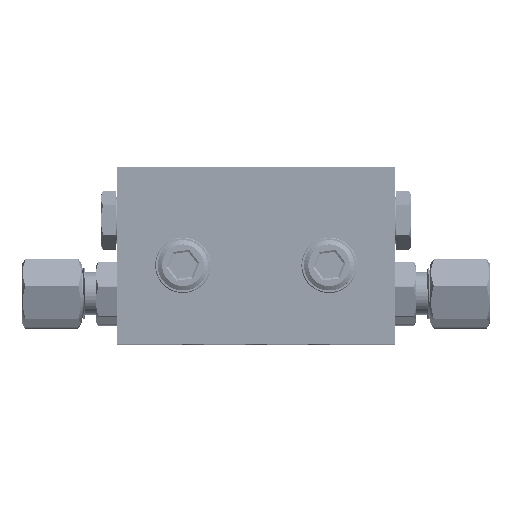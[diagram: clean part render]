
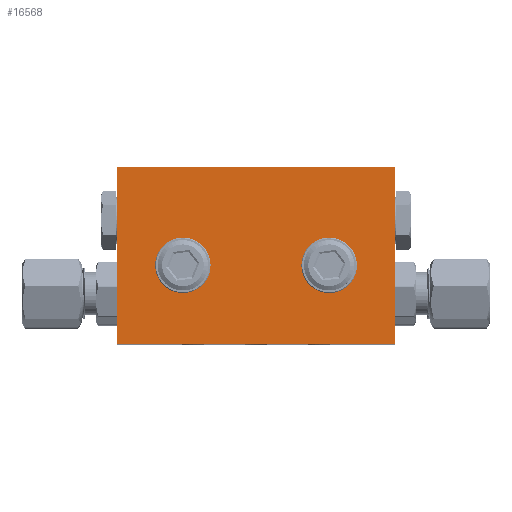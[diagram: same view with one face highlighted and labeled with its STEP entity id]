
A CAD part, top view. The second image highlights one B-rep face of the part: STEP entity #16568.
In plain terms, the highlighted planar face has unit normal (0, 0, 1) as drawn and (0, 0, -1) by its records, which use the part's own axes.
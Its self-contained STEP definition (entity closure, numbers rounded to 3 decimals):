
#488 = CARTESIAN_POINT ( 'NONE',  ( 11.4, -15.5, -4.85 ) ) ;
#2856 = ORIENTED_EDGE ( 'NONE', *, *, #43993, .F. ) ;
#4266 = CARTESIAN_POINT ( 'NONE',  ( -14.5, -15.5, -4.85 ) ) ;
#4519 = VERTEX_POINT ( 'NONE', #17902 ) ;
#5271 = CARTESIAN_POINT ( 'NONE',  ( -27.5, 0., -4.85 ) ) ;
#6493 = DIRECTION ( 'NONE',  ( -1., 0., 0. ) ) ;
#6505 = AXIS2_PLACEMENT_3D ( 'NONE', #4266, #17820, #21368 ) ;
#7705 = EDGE_LOOP ( 'NONE', ( #32755, #2856, #40901, #36275 ) ) ;
#9535 = FACE_BOUND ( 'NONE', #33554, .T. ) ;
#11459 = CARTESIAN_POINT ( 'NONE',  ( 27.5, 0., -4.85 ) ) ;
#12064 = EDGE_CURVE ( 'NONE', #21133, #21133, #35958, .T. ) ;
#12645 = CARTESIAN_POINT ( 'NONE',  ( 0., 0., -4.85 ) ) ;
#13296 = CARTESIAN_POINT ( 'NONE',  ( -11.4, -15.5, -4.85 ) ) ;
#13505 = EDGE_LOOP ( 'NONE', ( #24772 ) ) ;
#15013 = LINE ( 'NONE', #11459, #23234 ) ;
#15624 = DIRECTION ( 'NONE',  ( 1., 0., 0. ) ) ;
#16066 = CARTESIAN_POINT ( 'NONE',  ( 0., -35., -4.85 ) ) ;
#16102 = CARTESIAN_POINT ( 'NONE',  ( -27.5, -35., -4.85 ) ) ;
#16204 = FACE_OUTER_BOUND ( 'NONE', #7705, .T. ) ;
#16568 = ADVANCED_FACE ( 'NONE', ( #19100, #9535, #16204 ), #19315, .F. ) ;
#17221 = EDGE_CURVE ( 'NONE', #27283, #24184, #25706, .T. ) ;
#17820 = DIRECTION ( 'NONE',  ( 0., 0., -1. ) ) ;
#17902 = CARTESIAN_POINT ( 'NONE',  ( 27.5, -35., -4.85 ) ) ;
#18101 = VERTEX_POINT ( 'NONE', #16102 ) ;
#18811 = DIRECTION ( 'NONE',  ( 0., -1., 0. ) ) ;
#19017 = VECTOR ( 'NONE', #18811, 1000. ) ;
#19100 = FACE_BOUND ( 'NONE', #13505, .T. ) ;
#19315 = PLANE ( 'NONE',  #25208 ) ;
#21133 = VERTEX_POINT ( 'NONE', #488 ) ;
#21368 = DIRECTION ( 'NONE',  ( 1., 0., 0. ) ) ;
#21721 = VECTOR ( 'NONE', #15624, 1000. ) ;
#23234 = VECTOR ( 'NONE', #25052, 1000. ) ;
#23558 = VERTEX_POINT ( 'NONE', #13296 ) ;
#23715 = CARTESIAN_POINT ( 'NONE',  ( 27.5, 0., -4.85 ) ) ;
#24184 = VERTEX_POINT ( 'NONE', #25719 ) ;
#24679 = ORIENTED_EDGE ( 'NONE', *, *, #12064, .F. ) ;
#24772 = ORIENTED_EDGE ( 'NONE', *, *, #34901, .F. ) ;
#25052 = DIRECTION ( 'NONE',  ( 0., 1., 0. ) ) ;
#25208 = AXIS2_PLACEMENT_3D ( 'NONE', #12645, #36526, #25805 ) ;
#25694 = CIRCLE ( 'NONE', #6505, 3.1 ) ;
#25706 = LINE ( 'NONE', #36208, #31734 ) ;
#25719 = CARTESIAN_POINT ( 'NONE',  ( -27.5, 0., -4.85 ) ) ;
#25805 = DIRECTION ( 'NONE',  ( 1., 0., 0. ) ) ;
#27283 = VERTEX_POINT ( 'NONE', #23715 ) ;
#29267 = LINE ( 'NONE', #16066, #21721 ) ;
#31734 = VECTOR ( 'NONE', #6493, 1000. ) ;
#32755 = ORIENTED_EDGE ( 'NONE', *, *, #41129, .F. ) ;
#33471 = DIRECTION ( 'NONE',  ( 0., 0., -1. ) ) ;
#33554 = EDGE_LOOP ( 'NONE', ( #24679 ) ) ;
#34573 = AXIS2_PLACEMENT_3D ( 'NONE', #43298, #33471, #40170 ) ;
#34901 = EDGE_CURVE ( 'NONE', #23558, #23558, #25694, .T. ) ;
#35349 = LINE ( 'NONE', #5271, #19017 ) ;
#35958 = CIRCLE ( 'NONE', #34573, 3.1 ) ;
#36208 = CARTESIAN_POINT ( 'NONE',  ( 0., 0., -4.85 ) ) ;
#36275 = ORIENTED_EDGE ( 'NONE', *, *, #42661, .F. ) ;
#36526 = DIRECTION ( 'NONE',  ( 0., 0., 1. ) ) ;
#40170 = DIRECTION ( 'NONE',  ( -1., 0., 0. ) ) ;
#40901 = ORIENTED_EDGE ( 'NONE', *, *, #17221, .F. ) ;
#41129 = EDGE_CURVE ( 'NONE', #18101, #4519, #29267, .T. ) ;
#42661 = EDGE_CURVE ( 'NONE', #4519, #27283, #15013, .T. ) ;
#43298 = CARTESIAN_POINT ( 'NONE',  ( 14.5, -15.5, -4.85 ) ) ;
#43993 = EDGE_CURVE ( 'NONE', #24184, #18101, #35349, .T. ) ;
